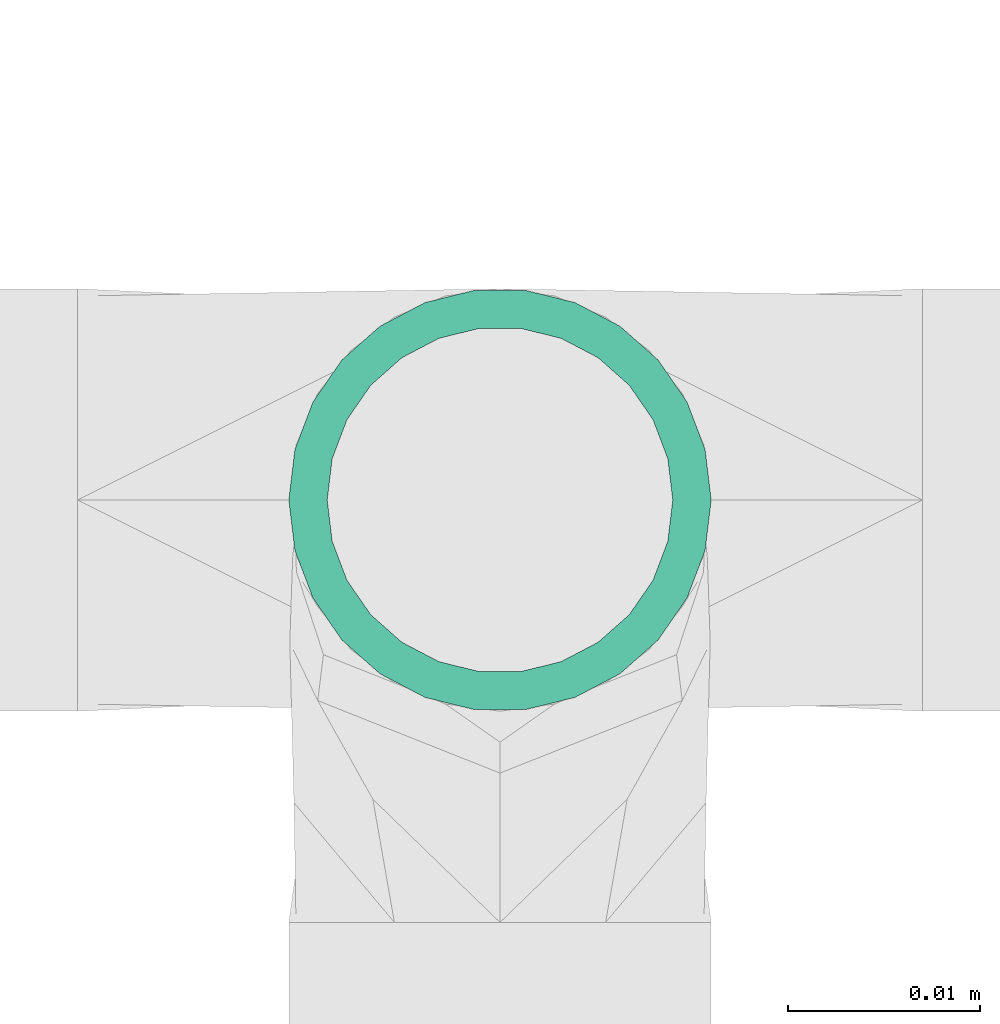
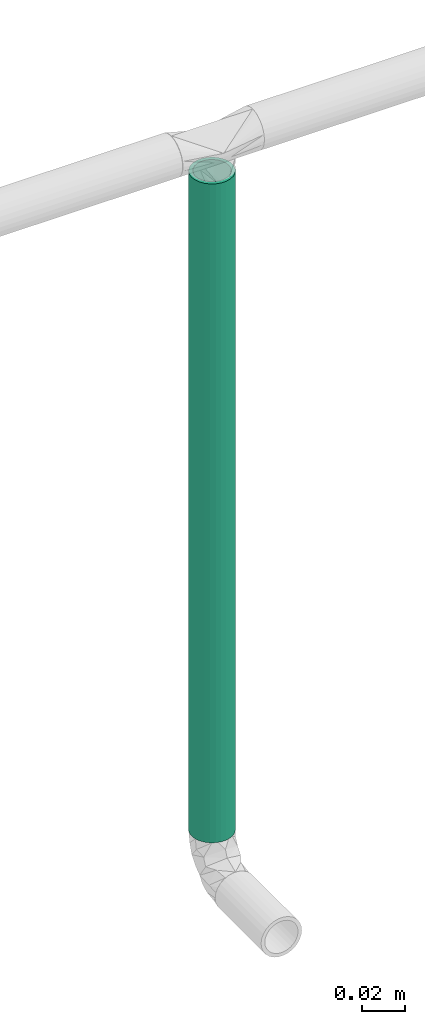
# One storey, part 31 of 78: 1 flow segment.
"""IFC2X3 building model written with IfcOpenShell, lengths in millimetres."""

import ifcopenshell
import ifcopenshell.guid

model = None  # the IFC model being written
_history = None  # IfcOwnerHistory: only IFC2X3 demands one
_inside = {}  # id of a spatial element -> (the spatial element, [elements in it])
_under = {}  # id of a project, library or spatial element -> (it, [spatial elements below it])
_declared = {}  # id of a project -> (the project, [libraries it declares])
_typed = {}  # id of a type object -> (the type object, [elements of that type])
_made_of = {}  # id of a material, layer set ... -> (it, [elements and type objects made of it])


def new_model(schema):
    """Start an empty IFC model of exactly this schema.

    Asked for "IFC4X3", IfcOpenShell would pick the latest addendum, in which some entities
    have other attributes; the version numbers below select the first issue.
    IFC2X3 requires an IfcOwnerHistory on every rooted entity: one is made here for all.
    """
    global model, _history
    if schema == "IFC4X3":
        model = ifcopenshell.file(schema_version=(4, 3, 0, 0))
    else:
        model = ifcopenshell.file(schema=schema)
    _inside.clear()
    _under.clear()
    _declared.clear()
    _typed.clear()
    _made_of.clear()
    _history = None
    if model.schema == "IFC2X3":
        org = make("IfcOrganization", Name="unknown")
        user = make(
            "IfcPersonAndOrganization",
            ThePerson=make("IfcPerson", FamilyName="unknown"),
            TheOrganization=org,
        )
        app = make(
            "IfcApplication",
            ApplicationDeveloper=org,
            Version="unknown",
            ApplicationFullName="unknown",
            ApplicationIdentifier="unknown",
        )
        _history = make(
            "IfcOwnerHistory",
            OwningUser=user,
            OwningApplication=app,
            ChangeAction="ADDED",
            CreationDate=0,
        )
    return model


def make(cls, **values):
    """One entity of the class cls with the attributes given. An attribute that is None is left unset."""
    return model.create_entity(
        cls, **{name: value for name, value in values.items() if value is not None}
    )


def entity(cls, *values):
    """Any entity or typed value of the class cls, its attributes in the order of the schema. None: left unset."""
    e = model.create_entity(cls)
    for i, value in enumerate(values):
        if value is not None:
            e[i] = value
    return e


def rooted(cls, **values):
    """An entity with a GlobalId (a new one), such as an element, a storey or a relation."""
    return make(cls, GlobalId=ifcopenshell.guid.new(), OwnerHistory=_history, **values)


def si_unit(unit_type, name, prefix=None):
    """IfcSIUnit, for example si_unit("LENGTHUNIT", "METRE", prefix="MILLI")."""
    return make("IfcSIUnit", UnitType=unit_type, Prefix=prefix, Name=name)


def converted_unit(unit_type, name, factor, base, dimensions=None, offset=None):
    """IfcConversionBasedUnit, such as the inch: factor (a typed value) times the base unit."""
    return make(
        "IfcConversionBasedUnit"
        if offset is None
        else "IfcConversionBasedUnitWithOffset",
        ConversionOffset=offset,
        Dimensions=None
        if dimensions is None
        else entity("IfcDimensionalExponents", *dimensions),
        UnitType=unit_type,
        Name=name,
        ConversionFactor=make(
            "IfcMeasureWithUnit", ValueComponent=factor, UnitComponent=base
        ),
    )


def derived_unit(unit_type, elements):
    """IfcDerivedUnit: a product of units, each with its exponent."""
    return make(
        "IfcDerivedUnit",
        Elements=[
            make("IfcDerivedUnitElement", Unit=unit, Exponent=power)
            for unit, power in elements
        ],
        UnitType=unit_type,
    )


def assignment(units):
    """IfcUnitAssignment: the units of a project."""
    return None if units is None else make("IfcUnitAssignment", Units=units)


def point(xyz):
    """IfcCartesianPoint."""
    return None if xyz is None else make("IfcCartesianPoint", Coordinates=xyz)


def direction(xyz):
    """IfcDirection."""
    return None if xyz is None else make("IfcDirection", DirectionRatios=xyz)


def frame(location, z_axis=None, x_axis=None):
    """IfcAxis2Placement3D, a coordinate frame: its origin and axes. An axis left out is left unset."""
    return make(
        "IfcAxis2Placement3D",
        Location=point(location),
        Axis=direction(z_axis),
        RefDirection=direction(x_axis),
    )


def frame_2d(location, x_axis=None):
    """IfcAxis2Placement2D, a coordinate frame in the plane: its origin and x axis."""
    return make(
        "IfcAxis2Placement2D", Location=point(location), RefDirection=direction(x_axis)
    )


def origin_with_axes():
    """The frame at (0, 0, 0) with the z axis (0, 0, 1) and the x axis (1, 0, 0) written out."""
    return frame((0.0, 0.0, 0.0), z_axis=(0.0, 0.0, 1.0), x_axis=(1.0, 0.0, 0.0))


def origin_2d_with_axis():
    """The frame at (0, 0) in the plane with the x axis (1, 0) written out."""
    return frame_2d((0.0, 0.0), x_axis=(1.0, 0.0))


def place(relative_to, where):
    """IfcLocalPlacement: puts the frame where relative to a parent placement (None: the world)."""
    return make(
        "IfcLocalPlacement", PlacementRelTo=relative_to, RelativePlacement=where
    )


def context(
    kind, dimensions, precision=None, world=None, true_north=None, identifier=None
):
    """IfcGeometricRepresentationContext, for example the 3D "Model" context."""
    return make(
        "IfcGeometricRepresentationContext",
        ContextIdentifier=identifier,
        ContextType=kind,
        CoordinateSpaceDimension=dimensions,
        Precision=precision,
        WorldCoordinateSystem=world,
        TrueNorth=true_north,
    )


def subcontext(parent, identifier, kind, view, scale=None):
    """IfcGeometricRepresentationSubContext, for example "Body" below "Model"."""
    return make(
        "IfcGeometricRepresentationSubContext",
        ContextIdentifier=identifier,
        ContextType=kind,
        ParentContext=parent,
        TargetScale=scale,
        TargetView=view,
    )


def project(units=None, contexts=None):
    """IfcProject with its units and contexts."""
    return rooted(
        "IfcProject",
        Name="project",
        RepresentationContexts=contexts,
        UnitsInContext=assignment(units),
    )


def spatial(cls, under=None, at=None, **own):
    """A site, building, storey or space (cls), placed at a placement, below another one or the project."""
    s = rooted(cls, ObjectPlacement=at, **own)
    if under is not None:
        _under.setdefault(under.id(), (under, []))[1].append(s)
    return s


def profile(cls, at=None, kind="AREA", **sizes):
    """A parametric profile (cls). Its sizes go by their IFC names, for example OverallWidth=200.0."""
    return make(cls, ProfileType=kind, Position=at, **sizes)


def hollow_circle(**sizes):
    """IfcCircleHollowProfileDef."""
    return profile("IfcCircleHollowProfileDef", **sizes)


def extrude(swept, where, along, depth):
    """IfcExtrudedAreaSolid: the profile swept, set in the frame where, extruded along a direction by depth."""
    return make(
        "IfcExtrudedAreaSolid",
        SweptArea=swept,
        Position=where,
        ExtrudedDirection=direction(along),
        Depth=depth,
    )


def shape(context_of_items, identifier, shape_type, items):
    """IfcShapeRepresentation: the items that make up one representation, for example the "Body"."""
    return make(
        "IfcShapeRepresentation",
        ContextOfItems=context_of_items,
        RepresentationIdentifier=identifier,
        RepresentationType=shape_type,
        Items=items,
    )


def source(mapping_origin, context_of_items, identifier, shape_type, items):
    """IfcRepresentationMap: a shape defined once, which mapped items show again and again."""
    return make(
        "IfcRepresentationMap",
        MappingOrigin=mapping_origin,
        MappedRepresentation=shape(context_of_items, identifier, shape_type, items),
    )


def transform(
    local_origin,
    x_axis=None,
    y_axis=None,
    z_axis=None,
    scale=None,
    scale2=None,
    scale3=None,
    uniform=True,
):
    """IfcCartesianTransformationOperator3D, or its non-uniform kind. x_axis, y_axis, z_axis: its Axis1, 2, 3."""
    if uniform:
        return make(
            "IfcCartesianTransformationOperator3D",
            Axis1=direction(x_axis),
            Axis2=direction(y_axis),
            LocalOrigin=point(local_origin),
            Scale=scale,
            Axis3=direction(z_axis),
        )
    return make(
        "IfcCartesianTransformationOperator3DnonUniform",
        Axis1=direction(x_axis),
        Axis2=direction(y_axis),
        LocalOrigin=point(local_origin),
        Scale=scale,
        Axis3=direction(z_axis),
        Scale2=scale2,
        Scale3=scale3,
    )


def mapped(mapping_source, mapping_target):
    """IfcMappedItem: shows the shape of a source again, moved by a transform."""
    return make(
        "IfcMappedItem", MappingSource=mapping_source, MappingTarget=mapping_target
    )


def made_of(thing, what):
    """Note that an element or type object is made of a material, layer set ...; save() writes the relation."""
    if what is not None:
        _made_of.setdefault(what.id(), (what, []))[1].append(thing)
    return thing


def type_object(cls, material=None, **own):
    """A type object (cls), such as IfcWallType, which elements share."""
    return made_of(rooted(cls, **own), material)


def element(
    cls,
    number,
    at=None,
    inside=None,
    cuts=None,
    type_object=None,
    material=None,
    context=None,
    identifier="Body",
    shape_type=None,
    held_by="IfcProductDefinitionShape",
    body=None,
    shapes=None,
    **own,
):
    """One element of the class cls, such as IfcWall. Its Tag is "e" and its number.

    at: its placement. inside: the storey or other place that contains it. cuts: it is an
    opening in that element (IfcRelVoidsElement). A single representation is given by context,
    identifier, shape_type and body (its items); several are given by shapes. held_by: the class
    of the entity that holds the representations. save() writes the other relations.
    """
    e = rooted(cls, Tag="e%d" % number, ObjectPlacement=at, **own)
    if body is not None:
        shapes = [shape(context, identifier, shape_type, body)]
    if shapes is not None:
        e.Representation = make(held_by, Representations=shapes)
    if inside is not None:
        _inside.setdefault(inside.id(), (inside, []))[1].append(e)
    if cuts is not None:
        rooted(
            "IfcRelVoidsElement", RelatingBuildingElement=cuts, RelatedOpeningElement=e
        )
    if type_object is not None:
        _typed.setdefault(type_object.id(), (type_object, []))[1].append(e)
    return made_of(e, material)


def aggregate(whole, parts):
    """IfcRelAggregates: a whole, such as a stair, and the parts it consists of."""
    return rooted("IfcRelAggregates", RelatingObject=whole, RelatedObjects=parts)


def save(model, path):
    """Write the relations noted so far, then the file.

    IfcRelAggregates (storeys below a building ...), IfcRelContainedInSpatialStructure (elements
    in a storey), IfcRelDefinesByType, IfcRelAssociatesMaterial and IfcRelDeclares: one each for
    every whole, place, type object, material and project.
    """
    for whole, parts in _under.values():
        aggregate(whole, parts)
    for where, things in _inside.values():
        rooted(
            "IfcRelContainedInSpatialStructure",
            RelatedElements=things,
            RelatingStructure=where,
        )
    for kind, things in _typed.values():
        rooted("IfcRelDefinesByType", RelatedObjects=things, RelatingType=kind)
    for what, things in _made_of.values():
        rooted("IfcRelAssociatesMaterial", RelatedObjects=things, RelatingMaterial=what)
    for by, libraries in _declared.values():
        rooted("IfcRelDeclares", RelatingContext=by, RelatedDefinitions=libraries)
    model.write(path)


model = new_model("IFC2X3")

# Units and contexts
model_context = context("Model", 3, precision=0.01, world=frame((0.0, 4.29681676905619e-09, 0.0)), true_north=direction((4.01073788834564e-13, 1.0)))
plan_context = context("Plan", 3, precision=0.01, world=frame((0.0, 4.29681676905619e-09, 0.0)), true_north=direction((4.01073788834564e-13, 1.0)))
body_context = subcontext(model_context, "Body", "Model", "MODEL_VIEW")
ifc_project = project(units=[converted_unit("PLANEANGLEUNIT", "DEGREE", entity("IfcPositiveLengthMeasure", 0.0174532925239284), si_unit("PLANEANGLEUNIT", "RADIAN"), dimensions=[0, 0, 0, 0, 0, 0, 0]), si_unit("AREAUNIT", "SQUARE_METRE"), si_unit("LENGTHUNIT", "METRE", prefix="MILLI"), si_unit("MASSUNIT", "GRAM", prefix="KILO"), si_unit("POWERUNIT", "WATT"), si_unit("PRESSUREUNIT", "PASCAL"), si_unit("FORCEUNIT", "NEWTON", prefix="KILO"), si_unit("ELECTRICVOLTAGEUNIT", "VOLT"), si_unit("ELECTRICCURRENTUNIT", "AMPERE"), si_unit("THERMODYNAMICTEMPERATUREUNIT", "DEGREE_CELSIUS"), si_unit("TIMEUNIT", "SECOND"), si_unit("VOLUMEUNIT", "CUBIC_METRE"), derived_unit("LINEARVELOCITYUNIT", [(si_unit("LENGTHUNIT", "METRE"), 1), (si_unit("TIMEUNIT", "SECOND"), -1)]), derived_unit("VOLUMETRICFLOWRATEUNIT", [(si_unit("VOLUMEUNIT", "CUBIC_METRE"), 1), (si_unit("TIMEUNIT", "SECOND"), -1)]), derived_unit("THERMALTRANSMITTANCEUNIT", [(si_unit("POWERUNIT", "WATT"), 1), (si_unit("THERMODYNAMICTEMPERATUREUNIT", "KELVIN"), -1), (si_unit("AREAUNIT", "SQUARE_METRE"), -1)]), derived_unit("SOUNDPRESSUREUNIT", [(si_unit("PRESSUREUNIT", "PASCAL"), 1)])], contexts=[model_context, plan_context])

# Site, building, storey
site_placement = place(None, frame((0.0, -4.29681676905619e-09, 0.0), z_axis=(0.0, 0.0, 1.0), x_axis=(1.0, 0.0, 0.0)))
site = spatial("IfcSite", under=ifc_project, at=site_placement, Name="ENGM", CompositionType="ELEMENT")
building_placement = place(site_placement, frame((0.0, 4.29681676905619e-09, 0.0), z_axis=(0.0, 0.0, 1.0), x_axis=(1.0, 0.0, 0.0)))
building = spatial("IfcBuilding", under=site, at=building_placement, Name="TH", CompositionType="ELEMENT")
storey_placement = place(building_placement, frame((0.0, 0.0, 205200.0), z_axis=(0.0, 0.0, 1.0), x_axis=(1.0, 0.0, 0.0)))
storey = spatial("IfcBuildingStorey", under=building, at=storey_placement, Name="Nivå D + 1,2 m", CompositionType="ELEMENT", Elevation=205200.0)

# Flow segment
pipe_segment_type = type_object("IfcPipeSegmentType", Name="Kobberrør", PredefinedType="RIGIDSEGMENT")
shared_shape = source(origin_with_axes(), body_context, "Body", "SweptSolid", [
    extrude(hollow_circle(Radius=11.0, WallThickness=2.0, at=origin_2d_with_axis()), frame((0.0, 0.0, 0.0), z_axis=(1.0, 0.0, 0.0), x_axis=(0.0, 1.0, 0.0)), (0.0, 0.0, 1.0), 376.5),
])
flow_segment_placement = place(storey_placement, frame((901000.85557, 482016.52017, 7677.08702000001), z_axis=(0.0, 1.0, 0.0), x_axis=(0.0, 0.0, 1.0)))
element("IfcFlowSegment", 1, at=flow_segment_placement, inside=storey, type_object=pipe_segment_type, Name="Kobberrør", context=body_context, shape_type="MappedRepresentation", body=[
    mapped(shared_shape, transform((0.0, 0.0, 0.0), scale=1.0)),
])

save(model, "model.ifc")
